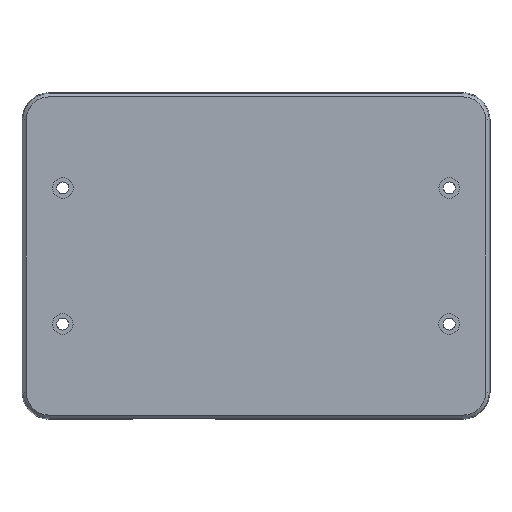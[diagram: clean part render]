
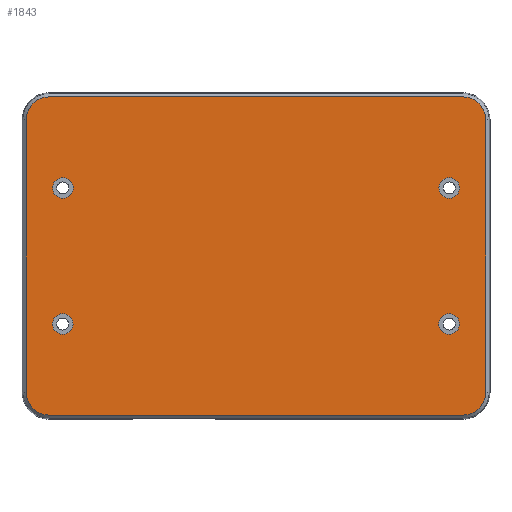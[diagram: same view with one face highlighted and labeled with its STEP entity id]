
A CAD part, front view. The second image highlights one B-rep face of the part: STEP entity #1843.
In plain terms, the highlighted planar face has unit normal (0, -1, 0).
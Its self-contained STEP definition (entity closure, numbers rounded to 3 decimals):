
#385=CARTESIAN_POINT('',(35.51,-8.1,12.5));
#386=DIRECTION('',(0.,-1.,0.));
#387=DIRECTION('',(1.,0.,0.));
#388=AXIS2_PLACEMENT_3D('',#385,#386,#387);
#390=CARTESIAN_POINT('',(35.51,-8.1,12.5));
#391=DIRECTION('',(0.,-1.,0.));
#392=DIRECTION('',(-1.,0.,0.));
#393=AXIS2_PLACEMENT_3D('',#390,#391,#392);
#395=CARTESIAN_POINT('',(-35.49,-8.1,12.5));
#396=DIRECTION('',(0.,-1.,0.));
#397=DIRECTION('',(1.,0.,0.));
#398=AXIS2_PLACEMENT_3D('',#395,#396,#397);
#400=CARTESIAN_POINT('',(-35.49,-8.1,12.5));
#401=DIRECTION('',(0.,-1.,0.));
#402=DIRECTION('',(-1.,0.,0.));
#403=AXIS2_PLACEMENT_3D('',#400,#401,#402);
#405=CARTESIAN_POINT('',(-35.51,-8.1,-12.5));
#406=DIRECTION('',(0.,-1.,0.));
#407=DIRECTION('',(1.,0.,0.));
#408=AXIS2_PLACEMENT_3D('',#405,#406,#407);
#410=CARTESIAN_POINT('',(-35.51,-8.1,-12.5));
#411=DIRECTION('',(0.,-1.,0.));
#412=DIRECTION('',(-1.,0.,0.));
#413=AXIS2_PLACEMENT_3D('',#410,#411,#412);
#415=CARTESIAN_POINT('',(35.49,-8.1,-12.5));
#416=DIRECTION('',(0.,-1.,0.));
#417=DIRECTION('',(1.,0.,0.));
#418=AXIS2_PLACEMENT_3D('',#415,#416,#417);
#420=CARTESIAN_POINT('',(35.49,-8.1,-12.5));
#421=DIRECTION('',(0.,-1.,0.));
#422=DIRECTION('',(-1.,0.,0.));
#423=AXIS2_PLACEMENT_3D('',#420,#421,#422);
#425=CARTESIAN_POINT('',(38.,-8.1,-25.));
#426=DIRECTION('',(0.,1.,0.));
#427=DIRECTION('',(1.,0.,0.));
#428=AXIS2_PLACEMENT_3D('',#425,#426,#427);
#430=DIRECTION('',(-1.,0.,0.));
#431=VECTOR('',#430,76.);
#432=CARTESIAN_POINT('',(38.,-8.1,-29.238));
#433=LINE('',#432,#431);
#434=CARTESIAN_POINT('',(-38.,-8.1,-25.));
#435=DIRECTION('',(0.,1.,0.));
#436=DIRECTION('',(0.,0.,-1.));
#437=AXIS2_PLACEMENT_3D('',#434,#435,#436);
#439=DIRECTION('',(0.,0.,1.));
#440=VECTOR('',#439,50.);
#441=CARTESIAN_POINT('',(-42.238,-8.1,
-25.));
#442=LINE('',#441,#440);
#443=CARTESIAN_POINT('',(-38.,-8.1,25.));
#444=DIRECTION('',(0.,1.,0.));
#445=DIRECTION('',(-1.,0.,0.));
#446=AXIS2_PLACEMENT_3D('',#443,#444,#445);
#448=DIRECTION('',(1.,0.,0.));
#449=VECTOR('',#448,76.);
#450=CARTESIAN_POINT('',(-38.,-8.1,29.238));
#451=LINE('',#450,#449);
#452=CARTESIAN_POINT('',(38.,-8.1,25.));
#453=DIRECTION('',(0.,1.,0.));
#454=DIRECTION('',(0.,0.,1.));
#455=AXIS2_PLACEMENT_3D('',#452,#453,#454);
#457=DIRECTION('',(0.,0.,-1.));
#458=VECTOR('',#457,50.);
#459=CARTESIAN_POINT('',(42.238,-8.1,25.));
#460=LINE('',#459,#458);
#1228=CARTESIAN_POINT('',(37.41,-8.1,12.5));
#1229=CARTESIAN_POINT('',(33.61,-8.1,12.5));
#1230=VERTEX_POINT('',#1228);
#1231=VERTEX_POINT('',#1229);
#1232=CARTESIAN_POINT('',(-33.59,-8.1,12.5));
#1233=CARTESIAN_POINT('',(-37.39,-8.1,12.5));
#1234=VERTEX_POINT('',#1232);
#1235=VERTEX_POINT('',#1233);
#1252=CARTESIAN_POINT('',(-33.61,-8.1,-12.5));
#1253=CARTESIAN_POINT('',(-37.41,-8.1,-12.5));
#1254=VERTEX_POINT('',#1252);
#1255=VERTEX_POINT('',#1253);
#1256=CARTESIAN_POINT('',(37.39,-8.1,-12.5));
#1257=CARTESIAN_POINT('',(33.59,-8.1,-12.5));
#1258=VERTEX_POINT('',#1256);
#1259=VERTEX_POINT('',#1257);
#1452=CARTESIAN_POINT('',(42.238,-8.1,-25.));
#1453=CARTESIAN_POINT('',(38.,-8.1,-29.238));
#1454=VERTEX_POINT('',#1452);
#1455=VERTEX_POINT('',#1453);
#1458=CARTESIAN_POINT('',(42.238,-8.1,25.));
#1459=VERTEX_POINT('',#1458);
#1462=CARTESIAN_POINT('',(38.,-8.1,29.238));
#1463=VERTEX_POINT('',#1462);
#1466=CARTESIAN_POINT('',(-38.,-8.1,
29.238));
#1467=VERTEX_POINT('',#1466);
#1470=CARTESIAN_POINT('',(-42.238,-8.1,25.));
#1471=VERTEX_POINT('',#1470);
#1474=CARTESIAN_POINT('',(-42.238,-8.1,
-25.));
#1475=VERTEX_POINT('',#1474);
#1478=CARTESIAN_POINT('',(-38.,-8.1,-29.238));
#1479=VERTEX_POINT('',#1478);
#1800=CARTESIAN_POINT('',(-43.,-8.1,30.));
#1801=DIRECTION('',(0.,-1.,0.));
#1802=DIRECTION('',(0.,0.,-1.));
#1803=AXIS2_PLACEMENT_3D('',#1800,#1801,#1802);
#1804=PLANE('',#1803);
#1806=ORIENTED_EDGE('',*,*,#1805,.T.);
#1807=ORIENTED_EDGE('',*,*,#1767,.T.);
#1808=ORIENTED_EDGE('',*,*,#1782,.T.);
#1809=ORIENTED_EDGE('',*,*,#1504,.T.);
#1810=ORIENTED_EDGE('',*,*,#1520,.T.);
#1812=ORIENTED_EDGE('',*,*,#1811,.T.);
#1814=ORIENTED_EDGE('',*,*,#1813,.T.);
#1816=ORIENTED_EDGE('',*,*,#1815,.T.);
#1817=EDGE_LOOP('',(#1806,#1807,#1808,#1809,#1810,#1812,#1814,#1816));
#1818=FACE_OUTER_BOUND('',#1817,.F.);
#1820=ORIENTED_EDGE('',*,*,#1819,.T.);
#1822=ORIENTED_EDGE('',*,*,#1821,.T.);
#1823=EDGE_LOOP('',(#1820,#1822));
#1824=FACE_BOUND('',#1823,.F.);
#1826=ORIENTED_EDGE('',*,*,#1825,.T.);
#1828=ORIENTED_EDGE('',*,*,#1827,.T.);
#1829=EDGE_LOOP('',(#1826,#1828));
#1830=FACE_BOUND('',#1829,.F.);
#1832=ORIENTED_EDGE('',*,*,#1831,.T.);
#1834=ORIENTED_EDGE('',*,*,#1833,.T.);
#1835=EDGE_LOOP('',(#1832,#1834));
#1836=FACE_BOUND('',#1835,.F.);
#1838=ORIENTED_EDGE('',*,*,#1837,.T.);
#1840=ORIENTED_EDGE('',*,*,#1839,.T.);
#1841=EDGE_LOOP('',(#1838,#1840));
#1842=FACE_BOUND('',#1841,.F.);
#389=CIRCLE('',#388,1.9);
#394=CIRCLE('',#393,1.9);
#399=CIRCLE('',#398,1.9);
#404=CIRCLE('',#403,1.9);
#409=CIRCLE('',#408,1.9);
#414=CIRCLE('',#413,1.9);
#419=CIRCLE('',#418,1.9);
#424=CIRCLE('',#423,1.9);
#429=CIRCLE('',#428,4.238);
#438=CIRCLE('',#437,4.238);
#447=CIRCLE('',#446,4.238);
#456=CIRCLE('',#455,4.238);
#1504=EDGE_CURVE('',#1475,#1471,#442,.T.);
#1520=EDGE_CURVE('',#1471,#1467,#447,.T.);
#1767=EDGE_CURVE('',#1455,#1479,#433,.T.);
#1782=EDGE_CURVE('',#1479,#1475,#438,.T.);
#1805=EDGE_CURVE('',#1454,#1455,#429,.T.);
#1811=EDGE_CURVE('',#1467,#1463,#451,.T.);
#1813=EDGE_CURVE('',#1463,#1459,#456,.T.);
#1815=EDGE_CURVE('',#1459,#1454,#460,.T.);
#1819=EDGE_CURVE('',#1234,#1235,#399,.T.);
#1821=EDGE_CURVE('',#1235,#1234,#404,.T.);
#1825=EDGE_CURVE('',#1254,#1255,#409,.T.);
#1827=EDGE_CURVE('',#1255,#1254,#414,.T.);
#1831=EDGE_CURVE('',#1258,#1259,#419,.T.);
#1833=EDGE_CURVE('',#1259,#1258,#424,.T.);
#1837=EDGE_CURVE('',#1230,#1231,#389,.T.);
#1839=EDGE_CURVE('',#1231,#1230,#394,.T.);
#1843=ADVANCED_FACE('',(#1818,#1824,#1830,#1836,#1842),#1804,.T.);
